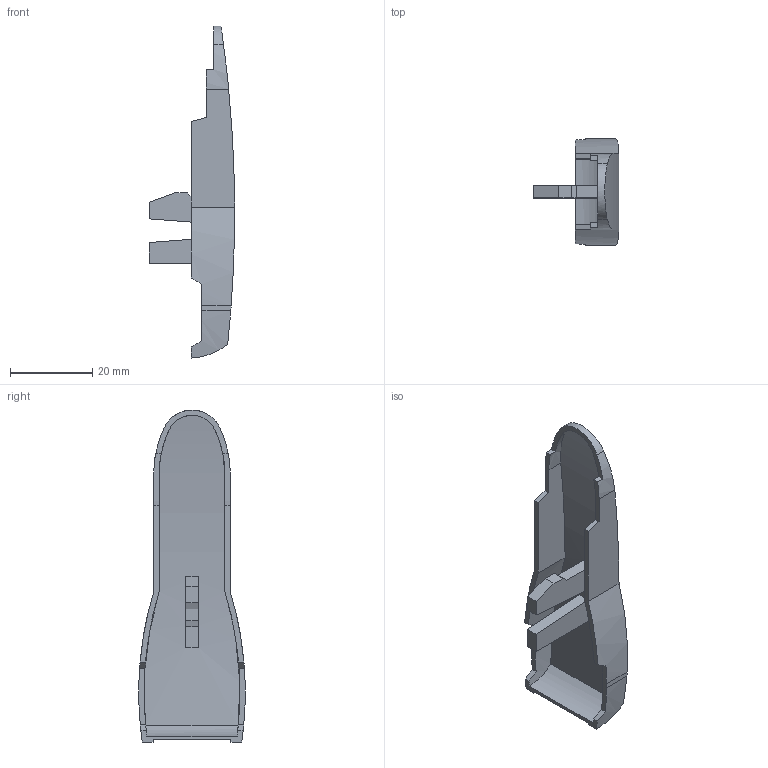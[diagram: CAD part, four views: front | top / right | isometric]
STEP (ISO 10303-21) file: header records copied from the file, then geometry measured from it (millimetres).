
FILE_DESCRIPTION( ( 'STEP AP214' ), '1' );
FILE_NAME( 'D:/Yug/2022/Sliding_&_Folding/WingLine_L/QC/9227326.stp', '2022-03-24T08:06:08', ( '' ), ( '' ), ' ', 'PARTsolutions', ' ' );
FILE_SCHEMA( ( 'AUTOMOTIVE_DESIGN { 1 0 10303 214 1 1 1 1 }' ) );
Length unit declared in the file: millimetre
Products named in the file (1): _9227326
Bounding box: 20.8 x 25.95 x 80.95 mm (x, y, z)
Volume: 4377.6 mm3; surface area: 6628.1 mm2
Topology: 1 solids, 1 shells, 53 faces, 150 edges, 100 vertices
Faces by surface type: plane 37, cylinder 16
Entity records: 2302 total; most frequent: CARTESIAN_POINT 472, ORIENTED_EDGE 300, DIRECTION 284, EDGE_CURVE 150, VERTEX_POINT 100, AXIS2_PLACEMENT_3D 96, LINE 92, VECTOR 92
